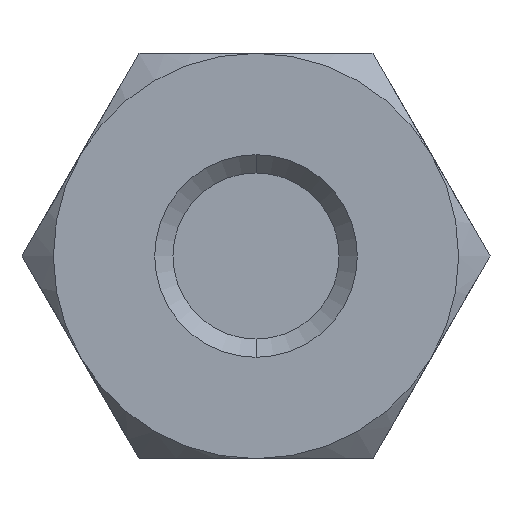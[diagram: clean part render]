
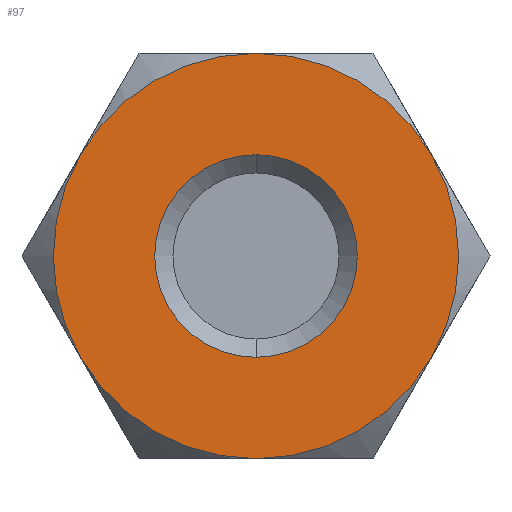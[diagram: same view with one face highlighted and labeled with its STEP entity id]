
A CAD part, front view. The second image highlights one B-rep face of the part: STEP entity #97.
In plain terms, the highlighted planar face has unit normal (0, -1, 0).
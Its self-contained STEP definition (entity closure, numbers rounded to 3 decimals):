
#97=ADVANCED_FACE('',(#173,#135),#387,.T.);
#135=FACE_OUTER_BOUND('',#180,.F.);
#173=FACE_BOUND('',#179,.F.);
#179=EDGE_LOOP('',(#223,#224));
#180=EDGE_LOOP('',(#225,#226));
#223=ORIENTED_EDGE('',*,*,#725,.T.);
#224=ORIENTED_EDGE('',*,*,#726,.T.);
#225=ORIENTED_EDGE('',*,*,#727,.F.);
#226=ORIENTED_EDGE('',*,*,#728,.F.);
#387=PLANE('',#917);
#725=EDGE_CURVE('',#878,#877,#807,.T.);
#726=EDGE_CURVE('',#877,#878,#808,.T.);
#727=EDGE_CURVE('',#876,#875,#809,.T.);
#728=EDGE_CURVE('',#875,#876,#810,.T.);
#807=CIRCLE('',#897,1.5);
#808=CIRCLE('',#898,1.5);
#809=CIRCLE('',#899,3.);
#810=CIRCLE('',#900,3.);
#875=VERTEX_POINT('',#1189);
#876=VERTEX_POINT('',#1190);
#877=VERTEX_POINT('',#1191);
#878=VERTEX_POINT('',#1192);
#897=AXIS2_PLACEMENT_3D('',#1193,#976,#977);
#898=AXIS2_PLACEMENT_3D('',#1194,#978,#979);
#899=AXIS2_PLACEMENT_3D('',#1195,#980,#981);
#900=AXIS2_PLACEMENT_3D('',#1196,#982,#983);
#917=AXIS2_PLACEMENT_3D('',#1351,#1030,#1031);
#976=DIRECTION('',(0.,-1.,0.));
#977=DIRECTION('',(0.,0.,1.));
#978=DIRECTION('',(0.,-1.,0.));
#979=DIRECTION('',(0.,0.,-1.));
#980=DIRECTION('',(0.,-1.,0.));
#981=DIRECTION('',(0.,0.,1.));
#982=DIRECTION('',(0.,-1.,0.));
#983=DIRECTION('',(0.,0.,-1.));
#1030=DIRECTION('',(0.,-1.,0.));
#1031=DIRECTION('',(-1.,0.,0.));
#1189=CARTESIAN_POINT('',(20.632,-50.496,18.203));
#1190=CARTESIAN_POINT('',(20.632,-50.496,24.203));
#1191=CARTESIAN_POINT('',(20.632,-50.496,19.703));
#1192=CARTESIAN_POINT('',(20.632,-50.496,22.703));
#1193=CARTESIAN_POINT('',(20.632,-50.496,21.203));
#1194=CARTESIAN_POINT('',(20.632,-50.496,21.203));
#1195=CARTESIAN_POINT('',(20.632,-50.496,21.203));
#1196=CARTESIAN_POINT('',(20.632,-50.496,21.203));
#1351=CARTESIAN_POINT('',(24.132,-50.496,24.703));
